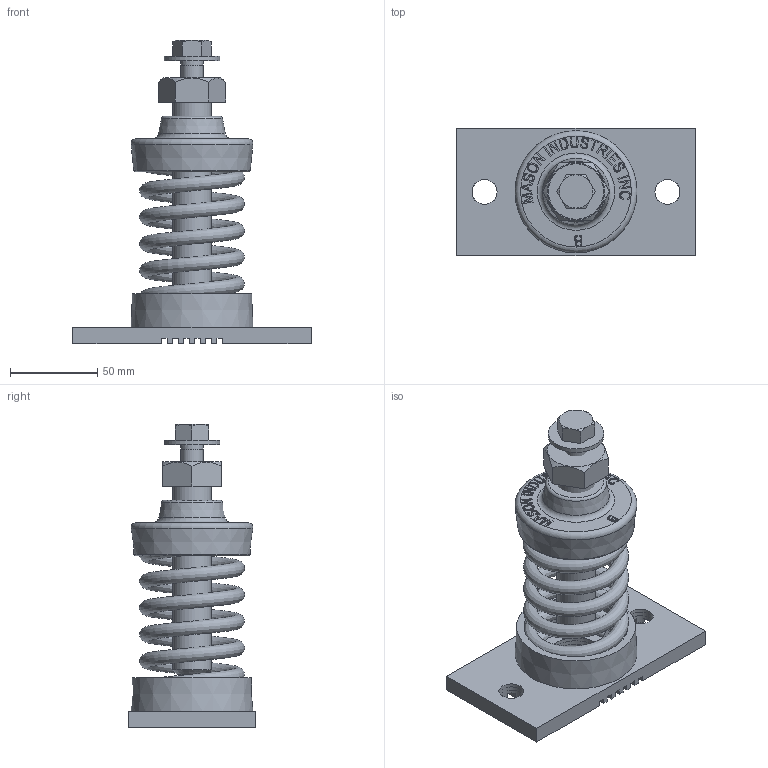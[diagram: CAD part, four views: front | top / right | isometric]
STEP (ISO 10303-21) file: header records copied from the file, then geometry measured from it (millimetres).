
FILE_DESCRIPTION(/* description */ (''),/* implementation_level */ '2;1');
FILE_NAME(/* name */ 'E:\CAD-PROE_SOLIDS\WEBSITE FILES 05.22.13\STEP\SLFHB\SLFH-B-450.stp',/* time_stamp */ '2014-05-01T22:02:22-04:00',/* author */ ('mleuck'),/* organization */ (''),/* preprocessor_version */ 'ST-DEVELOPER v15.2',/* originating_system */ 'Autodesk Inventor 2014',/* authorisation */ '');
FILE_SCHEMA (('AUTOMOTIVE_DESIGN { 1 0 10303 214 3 1 1 }'));
Length unit declared in the file: inch
Products named in the file (10): A-19773-1 SLF-B TOP CASTING; A-19773-1 SLF-B ADJUSTMENT BOLT 4250 x 08750; A-13847-2 SLFHB BOTTOM NEOPRENE PART; A-13847-2 SLFHB BOTTOM STEEL PLATE; A-13847-2 SLFHB BOTTOM ASSY; ANSI_ASME B18.2.1 - 1_2-13 UNC - 1.25(2); ANSI B18.22.1 - 1_2 - Regular - Type B; SLFHB WOS ASSEMBLY A-19768-2; SPRING B-450 FH (RED); SLFH-B-450
Bounding box: 136.53 x 73.03 x 173.71 mm (x, y, z)
Volume: 245639.9 mm3; surface area: 132805.1 mm2
Topology: 7 solids, 8 shells, 462 faces, 1210 edges, 801 vertices
Faces by surface type: plane 331, bspline 93, cylinder 17, cone 15, torus 6
Full cylindrical faces by diameter (mm): 10.592 x1, 12.7 x1, 13.487 x1, 14.287 x2, 15.081 x4, 19.05 x1, 19.177 x1, 22.225 x1, 31.75 x2, 32.544 x2, 59.531 x1
Entity records: 16839 total; most frequent: CARTESIAN_POINT 5993, ORIENTED_EDGE 2334, DIRECTION 1836, EDGE_CURVE 1167, LINE 858, VECTOR 858, VERTEX_POINT 790, EDGE_LOOP 553
